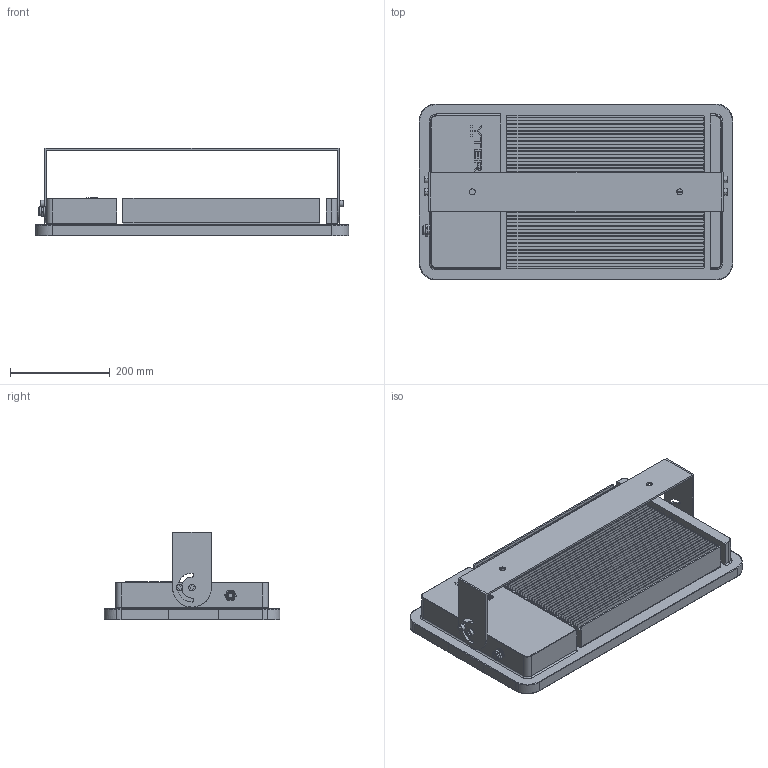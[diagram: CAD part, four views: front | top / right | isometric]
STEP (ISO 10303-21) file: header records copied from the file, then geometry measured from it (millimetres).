
FILE_DESCRIPTION(/* description */ (''),/* implementation_level */ '2;1');
FILE_NAME(/* name */ 'VERSIO~2',/* time_stamp */ '2016-09-12T19:15:57+02:00',/* author */ (''),/* organization */ (''),/* preprocessor_version */ 'ST-DEVELOPER v15',/* originating_system */ '',/* authorisation */ '');
FILE_SCHEMA (('AUTOMOTIVE_DESIGN'));
Length unit declared in the file: millimetre
Products named in the file (1): Document
Bounding box: 627 x 352 x 175.6 mm (x, y, z)
Volume: 6902085.8 mm3; surface area: 1720749.6 mm2
Topology: 22 solids, 123 shells, 570 faces, 1731 edges, 1319 vertices
Faces by surface type: plane 412, bspline 158
Entity records: 20145 total; most frequent: CARTESIAN_POINT 8525, ORIENTED_EDGE 2949, EDGE_CURVE 1731, B_SPLINE_CURVE_WITH_KNOTS 1400, VERTEX_POINT 1319, EDGE_LOOP 618, ADVANCED_FACE 570, FACE_OUTER_BOUND 570
